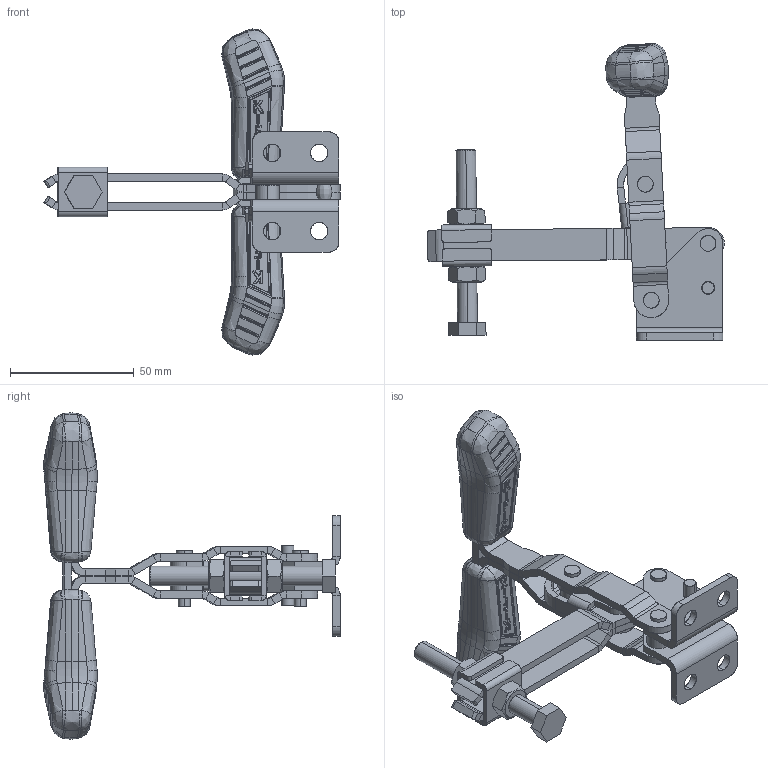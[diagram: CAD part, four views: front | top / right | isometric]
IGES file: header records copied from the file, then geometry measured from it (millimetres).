
Start section: SolidWorks IGES file using analytic representation for surfaces
Global section: file name: C:\Projetos\Grampos\KF-017 T\KF-017 DTL\KF-017 DTL.IGS; native system: SolidWorks 2018; preprocessor: SolidWorks 2018; author: Ricardo; date: 180604.153214; units: millimetre
Bounding box: 119.94 x 119.89 x 131.96 mm (x, y, z)
Surface area: 52754.7 mm2 (no closed solid volume)
Topology: 0 solids, 0 shells, 1739 faces, 15587 edges, 15469 vertices
Faces by surface type: bspline 1071, revolution 668
